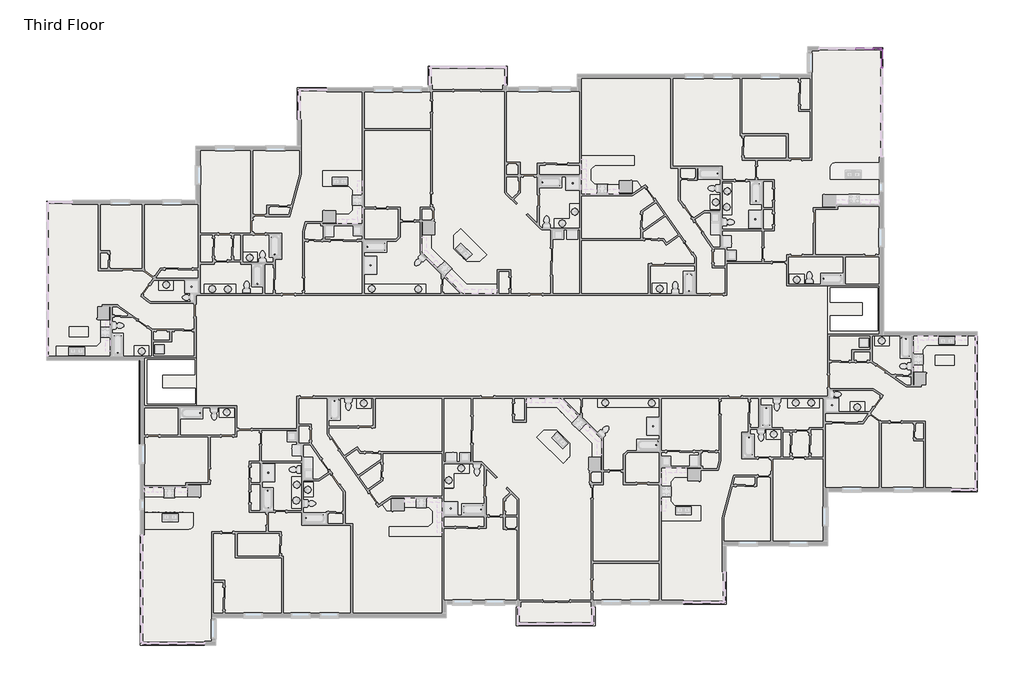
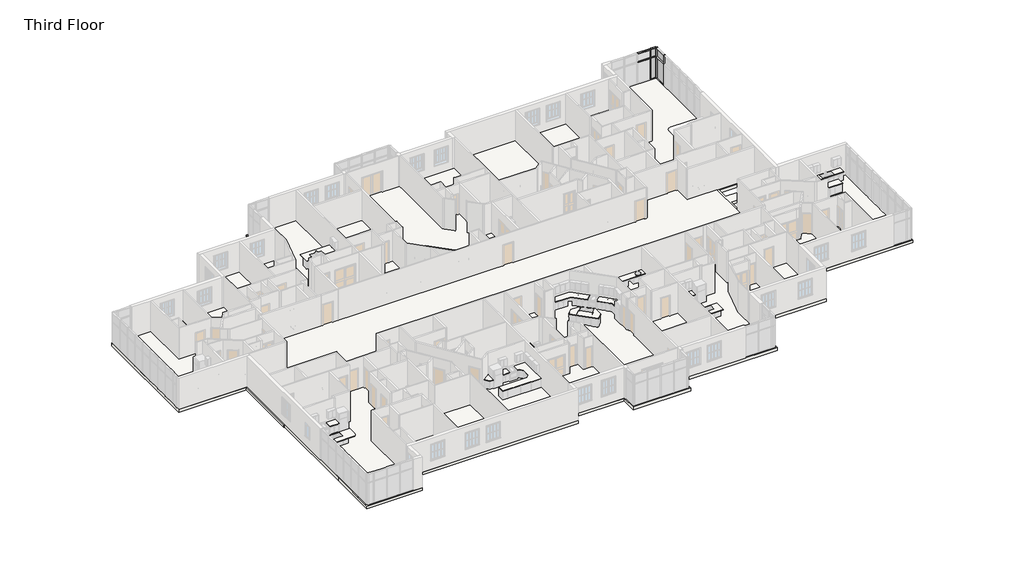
# One storey, part 13 of 17: 39 slabs, 13 members, 4 plates, 1 covering.
"""IFC4 building model written with IfcOpenShell, lengths in millimetres."""

from ifc_helpers import new_model, si_unit, point, frame, frame_2d, origin, place, context, project, spatial, polyline, circle_curve, trimmed, segment, composite_curve, outline, extrude, transform, mapped, element, save
from components import rectangular_mullion_rectangular_mullion_1_c1bf3533, rectangular_mullion_rectangular_mullion_1_fa3625a1, rectangular_mullion_rectangular_mullion_1_a50b3cda, rectangular_mullion_rectangular_mullion_1_5cd4c5ac, rectangular_mullion_rectangular_mullion_1_7cbf0b94, rectangular_mullion_rectangular_mullion_1_1da01dff, rectangular_mullion_rectangular_mullion_1_6186cc23, rectangular_mullion_rectangular_mullion_1_049a2e78, system_panel_glazed_53e6f9fb, system_panel_glazed_0e039939, system_panel_glazed_cb820e14, system_panel_glazed_5b288161

model = new_model("IFC4")

# Units and contexts
model_context = context("Model", 3, world=origin())
ifc_project = project(units=[si_unit("LENGTHUNIT", "METRE", prefix="MILLI")], contexts=[model_context])

# Site, building, storey
site = spatial("IfcSite", under=ifc_project)
building = spatial("IfcBuilding", under=site)
storey = spatial("IfcBuildingStorey", under=building, Name="Third Floor", Elevation=6096.0)

# Covering
placement = place(None, origin())
element("IfcCovering", 1, ObjectType="GWB on Furring", at=placement, inside=storey, context=model_context, shape_type="SweptSolid", body=[
    extrude(outline(polyline([(612.3831159, 8571.3427849), (10823.1831159, 8571.3427849), (10823.1831159, 12228.9427849), (17678.8246608, 12228.9427849), (17678.8246608, 16206.4791823), (26561.7198571, 16206.4791823), (26561.7198571, 17658.2365339), (31636.4923474, 17658.2365339), (31636.4923474, 16286.6365339), (36665.6923474, 16286.6365339), (36665.6923474, 17048.6365339), (52298.3534229, 17048.6365339), (52298.3534229, 18983.9169819), (57200.5534229, 18983.9169819), (57200.5534229, -370.8512558), (63577.7712704, -370.8512558), (63577.7712704, -10909.4129097), (53368.0217107, -10909.4129097), (53368.0217107, -14589.2379097), (46452.5922255, -14589.2379097), (46452.5922255, -18527.8691587), (37601.4470292, -18527.8691587), (37601.4470292, -20097.9066587), (32579.8565643, -20097.9066587), (32579.8565643, -18477.0691587), (27605.5115862, -18477.0691587), (27605.5115862, -19494.2615506), (11891.8009633, -19494.2615506), (11891.8009633, -21333.0996067), (7087.7956159, -21333.0996067), (7087.7956159, -1965.631369), (612.3831159, -1965.631369), (612.3831159, 8571.3427849)]), holes=[polyline([(7156.0581159, -5294.5871067), (10683.583999, -5294.5871067), (10683.583999, -1902.131369), (7156.0581159, -1902.131369), (7156.0581159, -5294.5871067)]), polyline([(53506.5703872, 2888.2544819), (53506.5703872, -370.8512558), (57019.8087704, -370.8512558), (57019.8087704, 2888.2544819), (53506.5703872, 2888.2544819)])]), frame((0.0, 0.0, 6096.0), z_axis=(0.0, 0.0, 1.0), x_axis=(1.0, 0.0, 0.0)), (0.0, 0.0, 1.0), 31.75),
])

# Members
rectangular_mullion_rectangular_mullion_1_shape = rectangular_mullion_rectangular_mullion_1_c1bf3533(model_context)
element("IfcMember", 2, ObjectType="Rectangular Mullion : Rectangular Mullion 1", at=placement, inside=storey, context=model_context, shape_type="MappedRepresentation", body=[
    mapped(rectangular_mullion_rectangular_mullion_1_shape, transform((57092.6034229, 18983.9169819, 9144.0), x_axis=(0.0, 0.0, 1.0), y_axis=(0.0, -1.0, 0.0), z_axis=(1.0, 0.0, 0.0))),
])
rectangular_mullion_rectangular_mullion_1_2_shape = rectangular_mullion_rectangular_mullion_1_fa3625a1(model_context)
element("IfcMember", 3, ObjectType="Rectangular Mullion : Rectangular Mullion 1", at=placement, inside=storey, context=model_context, shape_type="MappedRepresentation", body=[
    mapped(rectangular_mullion_rectangular_mullion_1_2_shape, transform((56571.9034233, 18983.9169819, 9144.0), x_axis=(0.0, 0.0, 1.0), y_axis=(0.0, -1.0, 0.0), z_axis=(1.0, 0.0, 0.0))),
])
element("IfcMember", 4, ObjectType="Rectangular Mullion : Rectangular Mullion 1", at=placement, inside=storey, context=model_context, shape_type="MappedRepresentation", body=[
    mapped(rectangular_mullion_rectangular_mullion_1_2_shape, transform((57175.1534229, 18875.9669819, 6096.0), x_axis=(0.0, 0.0, -1.0), y_axis=(-1.0, 0.0, 0.0), z_axis=(0.0, 1.0, 0.0))),
])
element("IfcMember", 5, ObjectType="Rectangular Mullion : Rectangular Mullion 1", at=placement, inside=storey, context=model_context, shape_type="MappedRepresentation", body=[
    mapped(rectangular_mullion_rectangular_mullion_1_shape, transform((56635.4034233, 18983.9169819, 6096.0), x_axis=(0.0, 0.0, -1.0), y_axis=(0.0, -1.0, 0.0), z_axis=(-1.0, 0.0, 0.0))),
])
rectangular_mullion_rectangular_mullion_1_3_shape = rectangular_mullion_rectangular_mullion_1_a50b3cda(model_context)
element("IfcMember", 6, ObjectType="Rectangular Mullion : Rectangular Mullion 1", at=placement, inside=storey, context=model_context, shape_type="MappedRepresentation", body=[
    mapped(rectangular_mullion_rectangular_mullion_1_3_shape, transform((57156.1034229, 18983.9169819, 6096.0), x_axis=(1.0, 0.0, 0.0), y_axis=(0.0, -1.0, 0.0), z_axis=(0.0, 0.0, -1.0))),
])
rectangular_mullion_rectangular_mullion_1_4_shape = rectangular_mullion_rectangular_mullion_1_5cd4c5ac(model_context)
element("IfcMember", 7, ObjectType="Rectangular Mullion : Rectangular Mullion 1", at=placement, inside=storey, context=model_context, shape_type="MappedRepresentation", body=[
    mapped(rectangular_mullion_rectangular_mullion_1_4_shape, transform((57156.1034229, 18983.9169819, 8261.35), x_axis=(1.0, 0.0, 0.0), y_axis=(0.0, -1.0, 0.0), z_axis=(0.0, 0.0, -1.0))),
])
element("IfcMember", 8, ObjectType="Rectangular Mullion : Rectangular Mullion 1", at=placement, inside=storey, context=model_context, shape_type="MappedRepresentation", body=[
    mapped(rectangular_mullion_rectangular_mullion_1_4_shape, transform((57175.1534229, 18939.4669819, 9144.0), x_axis=(0.0, 1.0, 0.0), y_axis=(-1.0, 0.0, 0.0), z_axis=(0.0, 0.0, 1.0))),
])
element("IfcMember", 9, ObjectType="Rectangular Mullion : Rectangular Mullion 1", at=placement, inside=storey, context=model_context, shape_type="MappedRepresentation", body=[
    mapped(rectangular_mullion_rectangular_mullion_1_3_shape, transform((57175.1534229, 18939.4669819, 8261.35), x_axis=(0.0, 1.0, 0.0), y_axis=(-1.0, 0.0, 0.0), z_axis=(0.0, 0.0, 1.0))),
])
rectangular_mullion_rectangular_mullion_1_5_shape = rectangular_mullion_rectangular_mullion_1_7cbf0b94(model_context)
element("IfcMember", 10, ObjectType="Rectangular Mullion : Rectangular Mullion 1", at=placement, inside=storey, context=model_context, shape_type="MappedRepresentation", body=[
    mapped(rectangular_mullion_rectangular_mullion_1_5_shape, transform((56571.9034233, 18983.9169819, 8261.35), x_axis=(0.0, 0.0, 1.0), y_axis=(0.0, -1.0, 0.0), z_axis=(1.0, 0.0, 0.0))),
])
rectangular_mullion_rectangular_mullion_1_6_shape = rectangular_mullion_rectangular_mullion_1_1da01dff(model_context)
element("IfcMember", 11, ObjectType="Rectangular Mullion : Rectangular Mullion 1", at=placement, inside=storey, context=model_context, shape_type="MappedRepresentation", body=[
    mapped(rectangular_mullion_rectangular_mullion_1_6_shape, transform((57092.6034229, 18983.9169819, 8261.35), x_axis=(0.0, 0.0, 1.0), y_axis=(0.0, -1.0, 0.0), z_axis=(1.0, 0.0, 0.0))),
])
rectangular_mullion_rectangular_mullion_1_7_shape = rectangular_mullion_rectangular_mullion_1_6186cc23(model_context)
element("IfcMember", 12, ObjectType="Rectangular Mullion : Rectangular Mullion 1", at=placement, inside=storey, context=model_context, shape_type="MappedRepresentation", body=[
    mapped(rectangular_mullion_rectangular_mullion_1_7_shape, transform((56603.6534233, 18983.9169819, 6096.0), x_axis=(1.0, 0.0, 0.0), y_axis=(0.0, -1.0, 0.0), z_axis=(0.0, 0.0, -1.0))),
])
rectangular_mullion_rectangular_mullion_1_8_shape = rectangular_mullion_rectangular_mullion_1_049a2e78(model_context)
element("IfcMember", 13, ObjectType="Rectangular Mullion : Rectangular Mullion 1", at=placement, inside=storey, context=model_context, shape_type="MappedRepresentation", body=[
    mapped(rectangular_mullion_rectangular_mullion_1_8_shape, transform((56603.6534233, 18983.9169819, 8261.35), x_axis=(1.0, 0.0, 0.0), y_axis=(0.0, -1.0, 0.0), z_axis=(0.0, 0.0, -1.0))),
])
element("IfcMember", 14, ObjectType="Rectangular Mullion : Rectangular Mullion 1", at=placement, inside=storey, context=model_context, shape_type="MappedRepresentation", body=[
    mapped(rectangular_mullion_rectangular_mullion_1_8_shape, transform((57175.1534229, 17688.5169816, 8261.35), x_axis=(0.0, -1.0, 0.0), y_axis=(-1.0, 0.0, 0.0), z_axis=(0.0, 0.0, -1.0))),
])

# Plates
system_panel_glazed_shape = system_panel_glazed_53e6f9fb(model_context)
element("IfcPlate", 15, ObjectType="System Panel : Glazed", at=placement, inside=storey, context=model_context, shape_type="MappedRepresentation", body=[
    mapped(system_panel_glazed_shape, transform((57175.1534229, 18298.1169818, 6159.5), x_axis=(0.0, -1.0, 0.0), y_axis=(1.0, 0.0, 0.0), z_axis=(0.0, 0.0, 1.0))),
])
system_panel_glazed_2_shape = system_panel_glazed_0e039939(model_context)
element("IfcPlate", 16, ObjectType="System Panel : Glazed", at=placement, inside=storey, context=model_context, shape_type="MappedRepresentation", body=[
    mapped(system_panel_glazed_2_shape, transform((56864.0034231, 18983.9169819, 6159.5), x_axis=(1.0, 0.0, 0.0), y_axis=(0.0, 1.0, 0.0), z_axis=(0.0, 0.0, 1.0))),
])
system_panel_glazed_3_shape = system_panel_glazed_cb820e14(model_context)
element("IfcPlate", 17, ObjectType="System Panel : Glazed", at=placement, inside=storey, context=model_context, shape_type="MappedRepresentation", body=[
    mapped(system_panel_glazed_3_shape, transform((57175.1534229, 18298.1169818, 8293.1), x_axis=(0.0, -1.0, 0.0), y_axis=(1.0, 0.0, 0.0), z_axis=(0.0, 0.0, 1.0))),
])
system_panel_glazed_4_shape = system_panel_glazed_5b288161(model_context)
element("IfcPlate", 18, ObjectType="System Panel : Glazed", at=placement, inside=storey, context=model_context, shape_type="MappedRepresentation", body=[
    mapped(system_panel_glazed_4_shape, transform((56864.0034231, 18983.9169819, 8293.1), x_axis=(1.0, 0.0, 0.0), y_axis=(0.0, 1.0, 0.0), z_axis=(0.0, 0.0, 1.0))),
])

# Slabs
element("IfcSlab", 19, ObjectType="Marble", at=placement, inside=storey, context=model_context, shape_type="SweptSolid", body=[
    extrude(outline(polyline([(50926.9744057, 3675.6544819), (51917.5744057, 3675.6544819), (51917.5744057, 3021.6044819), (50926.9744057, 3021.6044819), (50926.9744057, 3675.6544819)]), holes=[composite_curve([segment(trimmed(circle_curve(frame_2d((51422.2744057, 3320.0544819)), 203.2), [point((51219.0744057, 3320.0544819))], [point((51625.4744057, 3320.0544819))], True, "CARTESIAN"), True, "CONTINUOUS"), segment(trimmed(circle_curve(frame_2d((51422.2744057, 3320.0544819)), 203.2), [point((51625.4744057, 3320.0544819))], [point((51219.0744057, 3320.0544819))], True, "CARTESIAN"), True, "CONTINUOUS")], self_intersect=False)]), frame((0.0, 0.0, 6832.6), z_axis=(0.0, 0.0, 1.0), x_axis=(1.0, 0.0, 0.0)), (0.0, 0.0, 1.0), 38.1),
])
element("IfcSlab", 20, ObjectType="Marble", at=placement, inside=storey, context=model_context, shape_type="SweptSolid", body=[
    extrude(outline(polyline([(47019.1852525, 9841.9667096), (47019.1852525, 7708.3667096), (46371.4852525, 7708.3667096), (46371.4852525, 9841.9667096), (47019.1852525, 9841.9667096)]), holes=[composite_curve([segment(trimmed(circle_curve(frame_2d((46688.9852525, 8241.7667096)), 203.2), [point((46485.7852525, 8241.7667096))], [point((46892.1852525, 8241.7667096))], True, "CARTESIAN"), True, "CONTINUOUS"), segment(trimmed(circle_curve(frame_2d((46688.9852525, 8241.7667096)), 203.2), [point((46892.1852525, 8241.7667096))], [point((46485.7852525, 8241.7667096))], True, "CARTESIAN"), True, "CONTINUOUS")], self_intersect=False), composite_curve([segment(trimmed(circle_curve(frame_2d((46688.9852525, 9308.5667096)), 203.2), [point((46485.7852525, 9308.5667096))], [point((46892.1852525, 9308.5667096))], True, "CARTESIAN"), True, "CONTINUOUS"), segment(trimmed(circle_curve(frame_2d((46688.9852525, 9308.5667096)), 203.2), [point((46892.1852525, 9308.5667096))], [point((46485.7852525, 9308.5667096))], True, "CARTESIAN"), True, "CONTINUOUS")], self_intersect=False)]), frame((0.0, 0.0, 6832.6), z_axis=(0.0, 0.0, 1.0), x_axis=(1.0, 0.0, 0.0)), (0.0, 0.0, 1.0), 38.1),
])
element("IfcSlab", 21, ObjectType="Marble", at=placement, inside=storey, context=model_context, shape_type="SweptSolid", body=[
    extrude(outline(polyline([(37464.1178001, 10049.9225466), (37730.8178001, 9783.2225466), (37857.8178001, 9783.2225466), (37857.8178001, 9119.7410099), (36816.4178001, 9119.7410099), (36816.4178001, 11733.611548), (40399.3657184, 11733.611548), (40399.3657184, 11085.911548), (37746.5993369, 11085.911548), (37464.1178001, 10803.4300112), (37464.1178001, 10049.9225466)])), frame((0.0, 0.0, 6972.3), z_axis=(0.0, 0.0, 1.0), x_axis=(1.0, 0.0, 0.0)), (0.0, 0.0, 1.0), 38.1),
    extrude(outline(polyline([(39378.9347694, 9767.4410099), (39378.9347694, 9119.7410099), (38616.9347694, 9119.7410099), (38616.9347694, 9767.4410099), (39378.9347694, 9767.4410099)])), frame((0.0, 0.0, 6972.3), z_axis=(0.0, 0.0, 1.0), x_axis=(1.0, 0.0, 0.0)), (0.0, 0.0, 1.0), 38.1),
])
element("IfcSlab", 22, ObjectType="Marble", at=placement, inside=storey, context=model_context, shape_type="SweptSolid", body=[
    extrude(outline(polyline([(41626.0511183, 3064.2091714), (42616.6511183, 3064.2091714), (42616.6511183, 2391.1091714), (41626.0511183, 2391.1091714), (41626.0511183, 3064.2091714)]), holes=[composite_curve([segment(trimmed(circle_curve(frame_2d((42121.3511183, 2708.6091714)), 203.2), [point((41918.1511183, 2708.6091714))], [point((42324.5511183, 2708.6091714))], True, "CARTESIAN"), True, "CONTINUOUS"), segment(trimmed(circle_curve(frame_2d((42121.3511183, 2708.6091714)), 203.2), [point((42324.5511183, 2708.6091714))], [point((41918.1511183, 2708.6091714))], True, "CARTESIAN"), True, "CONTINUOUS")], self_intersect=False)]), frame((0.0, 0.0, 6832.6), z_axis=(0.0, 0.0, 1.0), x_axis=(1.0, 0.0, 0.0)), (0.0, 0.0, 1.0), 38.1),
])
element("IfcSlab", 23, ObjectType="Marble", at=placement, inside=storey, context=model_context, shape_type="SweptSolid", body=[
    extrude(outline(polyline([(34989.4572348, 6808.2918202), (34989.4572348, 7449.6418202), (36024.5072348, 7449.6418202), (36024.5072348, 8459.2918202), (36704.1794441, 8459.2918202), (36702.1178001, 6806.1559423), (34989.4572348, 6808.2918202)]), holes=[composite_curve([segment(trimmed(circle_curve(frame_2d((35526.0206512, 7126.8943672)), 203.2), [point((35729.2204932, 7126.6409544))], [point((35322.8208092, 7127.14778))], True, "CARTESIAN"), True, "CONTINUOUS"), segment(trimmed(circle_curve(frame_2d((35526.0206512, 7126.8943672)), 203.2), [point((35322.8208092, 7127.14778))], [point((35729.2204932, 7126.6409544))], True, "CARTESIAN"), True, "CONTINUOUS")], self_intersect=False), composite_curve([segment(trimmed(circle_curve(frame_2d((36367.6300654, 7922.506761)), 203.2), [point((36570.8299073, 7922.2533482))], [point((36164.4302234, 7922.7601737))], True, "CARTESIAN"), True, "CONTINUOUS"), segment(trimmed(circle_curve(frame_2d((36367.6300654, 7922.506761)), 203.2), [point((36164.4302234, 7922.7601737))], [point((36570.8299073, 7922.2533482))], True, "CARTESIAN"), True, "CONTINUOUS")], self_intersect=False)]), frame((0.0, 0.0, 6832.6), z_axis=(0.0, 0.0, 1.0), x_axis=(1.0, 0.0, 0.0)), (0.0, 0.0, 1.0), 38.1),
])
element("IfcSlab", 24, ObjectType="Marble", at=placement, inside=storey, context=model_context, shape_type="SweptSolid", body=[
    extrude(outline(polyline([(13837.7035557, 5166.0591714), (14828.3035557, 5166.0591714), (14828.3035557, 4492.9591714), (13837.7035557, 4492.9591714), (13837.7035557, 5166.0591714)]), holes=[composite_curve([segment(trimmed(circle_curve(frame_2d((14333.0035557, 4810.4591714)), 203.2), [point((14129.8035557, 4810.4591714))], [point((14536.2035557, 4810.4591714))], True, "CARTESIAN"), True, "CONTINUOUS"), segment(trimmed(circle_curve(frame_2d((14333.0035557, 4810.4591714)), 203.2), [point((14536.2035557, 4810.4591714))], [point((14129.8035557, 4810.4591714))], True, "CARTESIAN"), True, "CONTINUOUS")], self_intersect=False)]), frame((0.0, 0.0, 6832.6), z_axis=(0.0, 0.0, 1.0), x_axis=(1.0, 0.0, 0.0)), (0.0, 0.0, 1.0), 38.1),
])
element("IfcSlab", 25, ObjectType="Marble", at=placement, inside=storey, context=model_context, shape_type="SweptSolid", body=[
    extrude(outline(polyline([(6504.0261709, -1173.468869), (7494.6261709, -1173.468869), (7494.6261709, -1846.568869), (6504.0261709, -1846.568869), (6504.0261709, -1173.468869)]), holes=[composite_curve([segment(trimmed(circle_curve(frame_2d((6999.3261709, -1529.068869)), 203.2), [point((6796.1261709, -1529.068869))], [point((7202.5261708, -1529.068869))], True, "CARTESIAN"), True, "CONTINUOUS"), segment(trimmed(circle_curve(frame_2d((6999.3261709, -1529.068869)), 203.2), [point((7202.5261708, -1529.068869))], [point((6796.1261709, -1529.068869))], True, "CARTESIAN"), True, "CONTINUOUS")], self_intersect=False)]), frame((0.0, 0.0, 6832.6), z_axis=(0.0, 0.0, 1.0), x_axis=(1.0, 0.0, 0.0)), (0.0, 0.0, 1.0), 38.1),
])
element("IfcSlab", 26, ObjectType="Marble", at=placement, inside=storey, context=model_context, shape_type="SweptSolid", body=[
    extrude(outline(polyline([(9152.6629179, 2616.3624849), (8162.0629179, 2616.3624849), (8162.0629179, 3289.4624849), (9152.6629179, 3289.4624849), (9152.6629179, 2616.3624849)]), holes=[composite_curve([segment(trimmed(circle_curve(frame_2d((8657.3629179, 2971.9624849)), 203.2), [point((8860.5629179, 2971.9624849))], [point((8454.1629179, 2971.9624849))], True, "CARTESIAN"), True, "CONTINUOUS"), segment(trimmed(circle_curve(frame_2d((8657.3629179, 2971.9624849)), 203.2), [point((8454.1629179, 2971.9624849))], [point((8860.5629179, 2971.9624849))], True, "CARTESIAN"), True, "CONTINUOUS")], self_intersect=False)]), frame((0.0, 0.0, 6832.6), z_axis=(0.0, 0.0, 1.0), x_axis=(1.0, 0.0, 0.0)), (0.0, 0.0, 1.0), 38.1),
])
element("IfcSlab", 27, ObjectType="Marble", at=placement, inside=storey, context=model_context, shape_type="SweptSolid", body=[
    extrude(outline(polyline([(11250.0391694, 3007.0591714), (13383.6391694, 3007.0591714), (13383.6391694, 2359.3591714), (11250.0391694, 2359.3591714), (11250.0391694, 3007.0591714)]), holes=[composite_curve([segment(trimmed(circle_curve(frame_2d((12850.2391694, 2676.8591714)), 203.2), [point((12850.2391694, 2473.6591714))], [point((12850.2391694, 2880.0591714))], True, "CARTESIAN"), True, "CONTINUOUS"), segment(trimmed(circle_curve(frame_2d((12850.2391694, 2676.8591714)), 203.2), [point((12850.2391694, 2880.0591714))], [point((12850.2391694, 2473.6591714))], True, "CARTESIAN"), True, "CONTINUOUS")], self_intersect=False), composite_curve([segment(trimmed(circle_curve(frame_2d((11783.4391694, 2676.8591714)), 203.2), [point((11783.4391694, 2473.6591714))], [point((11783.4391694, 2880.0591714))], True, "CARTESIAN"), True, "CONTINUOUS"), segment(trimmed(circle_curve(frame_2d((11783.4391694, 2676.8591714)), 203.2), [point((11783.4391694, 2880.0591714))], [point((11783.4391694, 2473.6591714))], True, "CARTESIAN"), True, "CONTINUOUS")], self_intersect=False)]), frame((0.0, 0.0, 6832.6), z_axis=(0.0, 0.0, 1.0), x_axis=(1.0, 0.0, 0.0)), (0.0, 0.0, 1.0), 38.1),
])
element("IfcSlab", 28, ObjectType="Marble", at=placement, inside=storey, context=model_context, shape_type="SweptSolid", body=[
    extrude(outline(polyline([(45565.0352525, 8075.3578219), (45565.0352525, 9065.9578219), (46238.1352525, 9065.9578219), (46238.1352525, 8075.3578219), (45565.0352525, 8075.3578219)]), holes=[composite_curve([segment(trimmed(circle_curve(frame_2d((45920.6352525, 8570.6578219)), 203.2), [point((45920.6352525, 8367.4578219))], [point((45920.6352525, 8773.8578219))], True, "CARTESIAN"), True, "CONTINUOUS"), segment(trimmed(circle_curve(frame_2d((45920.6352525, 8570.6578219)), 203.2), [point((45920.6352525, 8773.8578219))], [point((45920.6352525, 8367.4578219))], True, "CARTESIAN"), True, "CONTINUOUS")], self_intersect=False)]), frame((0.0, 0.0, 6832.6), z_axis=(0.0, 0.0, 1.0), x_axis=(1.0, 0.0, 0.0)), (0.0, 0.0, 1.0), 38.1),
])
element("IfcSlab", 29, ObjectType="Marble", at=placement, inside=storey, context=model_context, shape_type="SweptSolid", body=[
    extrude(outline(polyline([(22080.2073571, 2360.472146), (22080.2073571, 2998.7524338), (26255.1289848, 2998.7524338), (26254.3264865, 2355.2665559), (22080.2073571, 2360.472146)]), holes=[composite_curve([segment(trimmed(circle_curve(frame_2d((25745.6467357, 2687.6122399)), 203.2), [point((25948.8465777, 2687.3588271))], [point((25542.4468937, 2687.8656527))], True, "CARTESIAN"), True, "CONTINUOUS"), segment(trimmed(circle_curve(frame_2d((25745.6467357, 2687.6122399)), 203.2), [point((25542.4468937, 2687.8656527))], [point((25948.8465777, 2687.3588271))], True, "CARTESIAN"), True, "CONTINUOUS")], self_intersect=False), composite_curve([segment(trimmed(circle_curve(frame_2d((22592.5961675, 2688.7367665)), 203.2), [point((22795.7960094, 2688.4833537))], [point((22389.3963255, 2688.9901793))], True, "CARTESIAN"), True, "CONTINUOUS"), segment(trimmed(circle_curve(frame_2d((22592.5961675, 2688.7367665)), 203.2), [point((22389.3963255, 2688.9901793))], [point((22795.7960094, 2688.4833537))], True, "CARTESIAN"), True, "CONTINUOUS")], self_intersect=False)]), frame((0.0, 0.0, 6832.6), z_axis=(0.0, 0.0, 1.0), x_axis=(1.0, 0.0, 0.0)), (0.0, 0.0, 1.0), 38.1),
])
element("IfcSlab", 30, ObjectType="Marble", at=placement, inside=storey, context=model_context, shape_type="SweptSolid", body=[
    extrude(outline(polyline([(28783.4392197, 2359.3591714), (27570.5233749, 3572.2750163), (28024.026309, 4025.7779504), (29049.0950879, 3000.7091714), (31107.0576897, 3000.7091714), (31107.0576897, 2359.3591714), (28783.4392197, 2359.3591714)])), frame((0.0, 0.0, 6972.3), z_axis=(0.0, 0.0, 1.0), x_axis=(1.0, 0.0, 0.0)), (0.0, 0.0, 1.0), 38.1),
])
element("IfcSlab", 31, ObjectType="Marble", at=placement, inside=storey, context=model_context, shape_type="SweptSolid", body=[
    extrude(outline(polyline([(28155.1545559, 6318.8980734), (28617.9568497, 6781.7003672), (30387.0673056, 5012.5899114), (29924.2650118, 4549.7876175), (29035.8578629, 4549.7876175), (28155.1545559, 5430.4909246), (28155.1545559, 6318.8980734)]), holes=[polyline([(28270.4282732, 5414.0000246), (29020.2863832, 4664.1419146), (29396.3907891, 5040.2463205), (28646.532679, 5790.1044305), (28270.4282732, 5414.0000246)])]), frame((0.0, 0.0, 6972.3), z_axis=(0.0, 0.0, 1.0), x_axis=(1.0, 0.0, 0.0)), (0.0, 0.0, 1.0), 38.1),
])
element("IfcSlab", 32, ObjectType="Marble", at=placement, inside=storey, context=model_context, shape_type="SweptSolid", body=[
    extrude(outline(polyline([(25998.6143708, 5154.0887964), (25998.6143708, 6373.2887964), (26639.9643708, 6373.2887964), (26639.9643708, 5431.1290346), (27499.5191999, 4571.5742055), (27040.3240808, 4112.3790864), (25998.6143708, 5154.0887964)])), frame((0.0, 0.0, 6972.3), z_axis=(0.0, 0.0, 1.0), x_axis=(1.0, 0.0, 0.0)), (0.0, 0.0, 1.0), 38.1),
])
element("IfcSlab", 33, ObjectType="Marble", at=placement, inside=storey, context=model_context, shape_type="SweptSolid", body=[
    extrude(outline(polyline([(2093.0864714, 129.9694727), (3375.7864714, 129.9694727), (3375.7864714, -543.1305273), (2093.0864714, -543.1305273), (2093.0864714, 129.9694727)])), frame((0.0, 0.0, 6972.3), z_axis=(0.0, 0.0, 1.0), x_axis=(1.0, 0.0, 0.0)), (0.0, 0.0, 1.0), 38.1),
])
element("IfcSlab", 34, ObjectType="Marble", at=placement, inside=storey, context=model_context, shape_type="SweptSolid", body=[
    extrude(outline(polyline([(4880.7003923, -1846.568869), (1191.3503923, -1846.568869), (1191.3503923, -1205.218869), (3957.3264687, -1205.218869), (4239.3503923, -923.1949454), (4239.3503923, -631.546226), (4880.7003923, -631.546226), (4880.7003923, -1846.568869)]), holes=[polyline([(3128.1003923, -1808.468869), (3128.1003923, -1275.068869), (2061.3003923, -1275.068869), (2061.3003923, -1808.468869), (3128.1003923, -1808.468869)])]), frame((0.0, 0.0, 6972.3), z_axis=(0.0, 0.0, 1.0), x_axis=(1.0, 0.0, 0.0)), (0.0, 0.0, 1.0), 38.1),
    extrude(outline(polyline([(4239.3503923, 131.5202225), (4239.3503923, 598.1185137), (4880.7003923, 598.1185137), (4880.7003923, 131.5202225), (4239.3503923, 131.5202225)])), frame((0.0, 0.0, 6972.3), z_axis=(0.0, 0.0, 1.0), x_axis=(1.0, 0.0, 0.0)), (0.0, 0.0, 1.0), 38.1),
])
element("IfcSlab", 35, ObjectType="Marble", at=placement, inside=storey, context=model_context, shape_type="SweptSolid", body=[
    extrude(outline(polyline([(20158.6042781, 7744.555075), (21038.3560765, 7744.555075), (21324.5573571, 8030.7563556), (21324.5573571, 8322.405075), (21972.2573571, 8322.405075), (21972.2573571, 7103.205075), (20158.6042781, 7103.205075), (20158.6042781, 7744.555075)])), frame((0.0, 0.0, 6972.3), z_axis=(0.0, 0.0, 1.0), x_axis=(1.0, 0.0, 0.0)), (0.0, 0.0, 1.0), 38.1),
    extrude(outline(polyline([(21044.7060765, 9655.905075), (19273.5073571, 9655.905075), (19273.5073571, 10697.0239484), (21972.2573571, 10697.0239484), (21972.2573571, 9084.405075), (21324.5573571, 9084.405075), (21324.5573571, 9376.0537944), (21044.7060765, 9655.905075)]), holes=[polyline([(20987.7427245, 10265.2239484), (19916.8560751, 10265.2239484), (19916.8560751, 9732.105075), (20987.7427245, 9732.105075), (20987.7427245, 10265.2239484)])]), frame((0.0, 0.0, 6972.3), z_axis=(0.0, 0.0, 1.0), x_axis=(1.0, 0.0, 0.0)), (0.0, 0.0, 1.0), 38.1),
])
element("IfcSlab", 36, ObjectType="Marble", at=placement, inside=storey, context=model_context, shape_type="SweptSolid", body=[
    extrude(outline(polyline([(40262.8543604, 10000.5110724), (40587.2272521, 10000.5110724), (40887.9989359, 9570.9645917), (40262.8543604, 9133.2336474), (40262.8543604, 10000.5110724)])), frame((0.0, 0.0, 6972.3), z_axis=(0.0, 0.0, 1.0), x_axis=(1.0, 0.0, 0.0)), (0.0, 0.0, 1.0), 38.1),
])
element("IfcSlab", 37, ObjectType="Marble", at=placement, inside=storey, context=model_context, shape_type="SweptSolid", body=[
    extrude(outline(composite_curve([segment(polyline([(7170.3456159, -12486.5347765), (10488.6061289, -12486.5347765), (10488.6061289, -13305.0808673)]), True, "CONTINUOUS"), segment(trimmed(circle_curve(frame_2d((10183.8061289, -13305.0808673)), 304.8), [point((10488.6061289, -13305.0808673))], [point((10180.1154029, -13609.8585216))], False, "CARTESIAN"), True, "CONTINUOUS"), segment(polyline([(10180.1154029, -13609.8585216), (7170.3456159, -13609.8585216), (7170.3456159, -12486.5347765)]), True, "CONTINUOUS")], self_intersect=False), holes=[polyline([(9469.7910491, -13082.6391551), (9469.7910491, -12555.3066357), (8402.0211605, -12555.3066357), (8402.0211605, -13082.6391551), (9469.7910491, -13082.6391551)])]), frame((0.0, 0.0, 6972.3), z_axis=(0.0, 0.0, 1.0), x_axis=(1.0, 0.0, 0.0)), (0.0, 0.0, 1.0), 38.1),
])
element("IfcSlab", 38, ObjectType="Marble", at=placement, inside=storey, context=model_context, shape_type="SweptSolid", body=[
    extrude(outline(polyline([(10127.0683728, -11419.8368662), (9246.0058728, -11419.8368662), (9246.0058728, -10794.1493344), (10127.0683728, -10794.1493344), (10127.0683728, -11419.8368662)])), frame((0.0, 0.0, 6972.3), z_axis=(0.0, 0.0, 1.0), x_axis=(1.0, 0.0, 0.0)), (0.0, 0.0, 1.0), 38.1),
    extrude(outline(polyline([(8484.0058728, -11419.8368662), (7175.9058728, -11419.8368662), (7175.9058728, -10772.1368662), (8484.0058728, -10772.1368662), (8484.0058728, -11419.8368662)])), frame((0.0, 0.0, 6972.3), z_axis=(0.0, 0.0, 1.0), x_axis=(1.0, 0.0, 0.0)), (0.0, 0.0, 1.0), 38.1),
])
element("IfcSlab", 39, ObjectType="Marble", at=placement, inside=storey, context=model_context, shape_type="SweptSolid", body=[
    extrude(outline(polyline([(13263.1799806, -6024.8371067), (12272.5799806, -6024.8371067), (12272.5799806, -5370.7871067), (13263.1799806, -5370.7871067), (13263.1799806, -6024.8371067)]), holes=[composite_curve([segment(trimmed(circle_curve(frame_2d((12767.8799806, -5669.2371067)), 203.2), [point((12971.0799806, -5669.2371067))], [point((12564.6799806, -5669.2371067))], True, "CARTESIAN"), True, "CONTINUOUS"), segment(trimmed(circle_curve(frame_2d((12767.8799806, -5669.2371067)), 203.2), [point((12564.6799806, -5669.2371067))], [point((12971.0799806, -5669.2371067))], True, "CARTESIAN"), True, "CONTINUOUS")], self_intersect=False)]), frame((0.0, 0.0, 6832.6), z_axis=(0.0, 0.0, 1.0), x_axis=(1.0, 0.0, 0.0)), (0.0, 0.0, 1.0), 38.1),
])
element("IfcSlab", 40, ObjectType="Marble", at=placement, inside=storey, context=model_context, shape_type="SweptSolid", body=[
    extrude(outline(polyline([(17170.9691338, -12191.1493344), (17170.9691338, -10057.5493344), (17818.6691338, -10057.5493344), (17818.6691338, -12191.1493344), (17170.9691338, -12191.1493344)]), holes=[composite_curve([segment(trimmed(circle_curve(frame_2d((17501.1691338, -10590.9493344)), 203.2), [point((17704.3691338, -10590.9493344))], [point((17297.9691338, -10590.9493344))], True, "CARTESIAN"), True, "CONTINUOUS"), segment(trimmed(circle_curve(frame_2d((17501.1691338, -10590.9493344)), 203.2), [point((17297.9691338, -10590.9493344))], [point((17704.3691338, -10590.9493344))], True, "CARTESIAN"), True, "CONTINUOUS")], self_intersect=False), composite_curve([segment(trimmed(circle_curve(frame_2d((17501.1691338, -11657.7493344)), 203.2), [point((17704.3691338, -11657.7493344))], [point((17297.9691338, -11657.7493344))], True, "CARTESIAN"), True, "CONTINUOUS"), segment(trimmed(circle_curve(frame_2d((17501.1691338, -11657.7493344)), 203.2), [point((17297.9691338, -11657.7493344))], [point((17704.3691338, -11657.7493344))], True, "CARTESIAN"), True, "CONTINUOUS")], self_intersect=False)]), frame((0.0, 0.0, 6832.6), z_axis=(0.0, 0.0, 1.0), x_axis=(1.0, 0.0, 0.0)), (0.0, 0.0, 1.0), 38.1),
])
element("IfcSlab", 41, ObjectType="Marble", at=placement, inside=storey, context=model_context, shape_type="SweptSolid", body=[
    extrude(outline(polyline([(26726.0365862, -12399.1051714), (26459.3365862, -12132.4051714), (26332.3365862, -12132.4051714), (26332.3365862, -11468.9236347), (27373.7365862, -11468.9236347), (27373.7365862, -14082.7941728), (23790.7886679, -14082.7941728), (23790.7886679, -13435.0941728), (26443.5550494, -13435.0941728), (26726.0365862, -13152.6126361), (26726.0365862, -12399.1051714)])), frame((0.0, 0.0, 6972.3), z_axis=(0.0, 0.0, 1.0), x_axis=(1.0, 0.0, 0.0)), (0.0, 0.0, 1.0), 38.1),
    extrude(outline(polyline([(24811.2196169, -12116.6236347), (24811.2196169, -11468.9236347), (25573.2196169, -11468.9236347), (25573.2196169, -12116.6236347), (24811.2196169, -12116.6236347)])), frame((0.0, 0.0, 6972.3), z_axis=(0.0, 0.0, 1.0), x_axis=(1.0, 0.0, 0.0)), (0.0, 0.0, 1.0), 38.1),
])
element("IfcSlab", 42, ObjectType="Marble", at=placement, inside=storey, context=model_context, shape_type="SweptSolid", body=[
    extrude(outline(polyline([(22564.103268, -5413.3917963), (21573.503268, -5413.3917963), (21573.503268, -4740.2917963), (22564.103268, -4740.2917963), (22564.103268, -5413.3917963)]), holes=[composite_curve([segment(trimmed(circle_curve(frame_2d((22068.803268, -5057.7917963)), 203.2), [point((22272.003268, -5057.7917963))], [point((21865.603268, -5057.7917963))], True, "CARTESIAN"), True, "CONTINUOUS"), segment(trimmed(circle_curve(frame_2d((22068.803268, -5057.7917963)), 203.2), [point((21865.603268, -5057.7917963))], [point((22272.003268, -5057.7917963))], True, "CARTESIAN"), True, "CONTINUOUS")], self_intersect=False)]), frame((0.0, 0.0, 6832.6), z_axis=(0.0, 0.0, 1.0), x_axis=(1.0, 0.0, 0.0)), (0.0, 0.0, 1.0), 38.1),
])
element("IfcSlab", 43, ObjectType="Marble", at=placement, inside=storey, context=model_context, shape_type="SweptSolid", body=[
    extrude(outline(polyline([(29200.6971515, -9157.474445), (29200.6971515, -9798.824445), (28165.6471515, -9798.824445), (28165.6471515, -10808.474445), (27485.9749422, -10808.474445), (27488.0365862, -9155.3385671), (29200.6971515, -9157.474445)]), holes=[composite_curve([segment(trimmed(circle_curve(frame_2d((28664.1337351, -9476.076992)), 203.2), [point((28460.9338931, -9475.8235793))], [point((28867.3335771, -9476.3304048))], True, "CARTESIAN"), True, "CONTINUOUS"), segment(trimmed(circle_curve(frame_2d((28664.1337351, -9476.076992)), 203.2), [point((28867.3335771, -9476.3304048))], [point((28460.9338931, -9475.8235793))], True, "CARTESIAN"), True, "CONTINUOUS")], self_intersect=False), composite_curve([segment(trimmed(circle_curve(frame_2d((27822.5243209, -10271.6893858)), 203.2), [point((27619.324479, -10271.435973))], [point((28025.7241629, -10271.9427985))], True, "CARTESIAN"), True, "CONTINUOUS"), segment(trimmed(circle_curve(frame_2d((27822.5243209, -10271.6893858)), 203.2), [point((28025.7241629, -10271.9427985))], [point((27619.324479, -10271.435973))], True, "CARTESIAN"), True, "CONTINUOUS")], self_intersect=False)]), frame((0.0, 0.0, 6832.6), z_axis=(0.0, 0.0, 1.0), x_axis=(1.0, 0.0, 0.0)), (0.0, 0.0, 1.0), 38.1),
])
element("IfcSlab", 44, ObjectType="Marble", at=placement, inside=storey, context=model_context, shape_type="SweptSolid", body=[
    extrude(outline(polyline([(50352.4508306, -7515.2417963), (49361.8508306, -7515.2417963), (49361.8508306, -6842.1417963), (50352.4508306, -6842.1417963), (50352.4508306, -7515.2417963)]), holes=[composite_curve([segment(trimmed(circle_curve(frame_2d((49857.1508306, -7159.6417963)), 203.2), [point((50060.3508306, -7159.6417963))], [point((49653.9508306, -7159.6417963))], True, "CARTESIAN"), True, "CONTINUOUS"), segment(trimmed(circle_curve(frame_2d((49857.1508306, -7159.6417963)), 203.2), [point((49653.9508306, -7159.6417963))], [point((50060.3508306, -7159.6417963))], True, "CARTESIAN"), True, "CONTINUOUS")], self_intersect=False)]), frame((0.0, 0.0, 6832.6), z_axis=(0.0, 0.0, 1.0), x_axis=(1.0, 0.0, 0.0)), (0.0, 0.0, 1.0), 38.1),
])
element("IfcSlab", 45, ObjectType="Marble", at=placement, inside=storey, context=model_context, shape_type="SweptSolid", body=[
    extrude(outline(polyline([(57686.1282154, -1175.7137558), (56695.5282154, -1175.7137558), (56695.5282154, -485.1512558), (57686.1282154, -485.1512558), (57686.1282154, -1175.7137558)]), holes=[composite_curve([segment(trimmed(circle_curve(frame_2d((57190.8282154, -820.1137558)), 203.2), [point((57394.0282154, -820.1137558))], [point((56987.6282154, -820.1137558))], True, "CARTESIAN"), True, "CONTINUOUS"), segment(trimmed(circle_curve(frame_2d((57190.8282154, -820.1137558)), 203.2), [point((56987.6282154, -820.1137558))], [point((57394.0282154, -820.1137558))], True, "CARTESIAN"), True, "CONTINUOUS")], self_intersect=False)]), frame((0.0, 0.0, 6832.6), z_axis=(0.0, 0.0, 1.0), x_axis=(1.0, 0.0, 0.0)), (0.0, 0.0, 1.0), 38.1),
])
element("IfcSlab", 46, ObjectType="Marble", at=placement, inside=storey, context=model_context, shape_type="SweptSolid", body=[
    extrude(outline(polyline([(55037.4914684, -4965.5451097), (56028.0914684, -4965.5451097), (56028.0914684, -5638.6451097), (55037.4914684, -5638.6451097), (55037.4914684, -4965.5451097)]), holes=[composite_curve([segment(trimmed(circle_curve(frame_2d((55532.7914684, -5321.1451097)), 203.2), [point((55329.5914684, -5321.1451097))], [point((55735.9914684, -5321.1451097))], True, "CARTESIAN"), True, "CONTINUOUS"), segment(trimmed(circle_curve(frame_2d((55532.7914684, -5321.1451097)), 203.2), [point((55735.9914684, -5321.1451097))], [point((55329.5914684, -5321.1451097))], True, "CARTESIAN"), True, "CONTINUOUS")], self_intersect=False)]), frame((0.0, 0.0, 6832.6), z_axis=(0.0, 0.0, 1.0), x_axis=(1.0, 0.0, 0.0)), (0.0, 0.0, 1.0), 38.1),
])
element("IfcSlab", 47, ObjectType="Marble", at=placement, inside=storey, context=model_context, shape_type="SweptSolid", body=[
    extrude(outline(polyline([(52940.1152169, -5356.2417963), (50806.5152169, -5356.2417963), (50806.5152169, -4708.5417963), (52940.1152169, -4708.5417963), (52940.1152169, -5356.2417963)]), holes=[composite_curve([segment(trimmed(circle_curve(frame_2d((51339.9152169, -5026.0417963)), 203.2), [point((51339.9152169, -4822.8417963))], [point((51339.9152169, -5229.2417963))], True, "CARTESIAN"), True, "CONTINUOUS"), segment(trimmed(circle_curve(frame_2d((51339.9152169, -5026.0417963)), 203.2), [point((51339.9152169, -5229.2417963))], [point((51339.9152169, -4822.8417963))], True, "CARTESIAN"), True, "CONTINUOUS")], self_intersect=False), composite_curve([segment(trimmed(circle_curve(frame_2d((52406.7152169, -5026.0417963)), 203.2), [point((52406.7152169, -4822.8417963))], [point((52406.7152169, -5229.2417963))], True, "CARTESIAN"), True, "CONTINUOUS"), segment(trimmed(circle_curve(frame_2d((52406.7152169, -5026.0417963)), 203.2), [point((52406.7152169, -5229.2417963))], [point((52406.7152169, -4822.8417963))], True, "CARTESIAN"), True, "CONTINUOUS")], self_intersect=False)]), frame((0.0, 0.0, 6832.6), z_axis=(0.0, 0.0, 1.0), x_axis=(1.0, 0.0, 0.0)), (0.0, 0.0, 1.0), 38.1),
])
element("IfcSlab", 48, ObjectType="Marble", at=placement, inside=storey, context=model_context, shape_type="SweptSolid", body=[
    extrude(outline(polyline([(18625.1191338, -10424.5404467), (18625.1191338, -11415.1404467), (17952.0191338, -11415.1404467), (17952.0191338, -10424.5404467), (18625.1191338, -10424.5404467)]), holes=[composite_curve([segment(trimmed(circle_curve(frame_2d((18269.5191338, -10919.8404467)), 203.2), [point((18269.5191338, -10716.6404467))], [point((18269.5191338, -11123.0404467))], True, "CARTESIAN"), True, "CONTINUOUS"), segment(trimmed(circle_curve(frame_2d((18269.5191338, -10919.8404467)), 203.2), [point((18269.5191338, -11123.0404467))], [point((18269.5191338, -10716.6404467))], True, "CARTESIAN"), True, "CONTINUOUS")], self_intersect=False)]), frame((0.0, 0.0, 6832.6), z_axis=(0.0, 0.0, 1.0), x_axis=(1.0, 0.0, 0.0)), (0.0, 0.0, 1.0), 38.1),
])
element("IfcSlab", 49, ObjectType="Marble", at=placement, inside=storey, context=model_context, shape_type="SweptSolid", body=[
    extrude(outline(polyline([(42109.9470292, -4709.6547708), (42109.9470292, -5347.9350586), (37935.0254015, -5347.9350586), (37935.8278998, -4704.4491807), (42109.9470292, -4709.6547708)]), holes=[composite_curve([segment(trimmed(circle_curve(frame_2d((38444.5076506, -5036.7948647)), 203.2), [point((38241.3078086, -5036.541452))], [point((38647.7074926, -5037.0482775))], True, "CARTESIAN"), True, "CONTINUOUS"), segment(trimmed(circle_curve(frame_2d((38444.5076506, -5036.7948647)), 203.2), [point((38647.7074926, -5037.0482775))], [point((38241.3078086, -5036.541452))], True, "CARTESIAN"), True, "CONTINUOUS")], self_intersect=False), composite_curve([segment(trimmed(circle_curve(frame_2d((41597.5582188, -5037.9193913)), 203.2), [point((41394.3583769, -5037.6659786))], [point((41800.7580608, -5038.1728041))], True, "CARTESIAN"), True, "CONTINUOUS"), segment(trimmed(circle_curve(frame_2d((41597.5582188, -5037.9193913)), 203.2), [point((41800.7580608, -5038.1728041))], [point((41394.3583769, -5037.6659786))], True, "CARTESIAN"), True, "CONTINUOUS")], self_intersect=False)]), frame((0.0, 0.0, 6832.6), z_axis=(0.0, 0.0, 1.0), x_axis=(1.0, 0.0, 0.0)), (0.0, 0.0, 1.0), 38.1),
])
element("IfcSlab", 50, ObjectType="Marble", at=placement, inside=storey, context=model_context, shape_type="SweptSolid", body=[
    extrude(outline(polyline([(35406.7151666, -4708.5417963), (36619.6310114, -5921.4576411), (36166.1280773, -6374.9605752), (35141.0592984, -5349.8917963), (33083.0966966, -5349.8917963), (33083.0966966, -4708.5417963), (35406.7151666, -4708.5417963)])), frame((0.0, 0.0, 6972.3), z_axis=(0.0, 0.0, 1.0), x_axis=(1.0, 0.0, 0.0)), (0.0, 0.0, 1.0), 38.1),
])
element("IfcSlab", 51, ObjectType="Marble", at=placement, inside=storey, context=model_context, shape_type="SweptSolid", body=[
    extrude(outline(polyline([(36034.9998304, -8668.0806982), (35572.1975365, -9130.882992), (33803.0870807, -7361.7725362), (34265.8893745, -6898.9702424), (35154.2965233, -6898.9702424), (36034.9998304, -7779.6735494), (36034.9998304, -8668.0806982)]), holes=[polyline([(35919.7261131, -7763.1826495), (35169.8680031, -7013.3245394), (34793.7635972, -7389.4289453), (35543.6217072, -8139.2870553), (35919.7261131, -7763.1826495)])]), frame((0.0, 0.0, 6972.3), z_axis=(0.0, 0.0, 1.0), x_axis=(1.0, 0.0, 0.0)), (0.0, 0.0, 1.0), 38.1),
])
element("IfcSlab", 52, ObjectType="Marble", at=placement, inside=storey, context=model_context, shape_type="SweptSolid", body=[
    extrude(outline(polyline([(38191.5400155, -7503.2714212), (38191.5400155, -8722.4714212), (37550.1900155, -8722.4714212), (37550.1900155, -7780.3116594), (36690.6351864, -6920.7568303), (37149.8303055, -6461.5617112), (38191.5400155, -7503.2714212)])), frame((0.0, 0.0, 6972.3), z_axis=(0.0, 0.0, 1.0), x_axis=(1.0, 0.0, 0.0)), (0.0, 0.0, 1.0), 38.1),
])
element("IfcSlab", 53, ObjectType="Marble", at=placement, inside=storey, context=model_context, shape_type="SweptSolid", body=[
    extrude(outline(polyline([(62097.0679149, -2479.1520975), (60814.3679149, -2479.1520975), (60814.3679149, -1806.0520975), (62097.0679149, -1806.0520975), (62097.0679149, -2479.1520975)])), frame((0.0, 0.0, 6972.3), z_axis=(0.0, 0.0, 1.0), x_axis=(1.0, 0.0, 0.0)), (0.0, 0.0, 1.0), 38.1),
])
element("IfcSlab", 54, ObjectType="Marble", at=placement, inside=storey, context=model_context, shape_type="SweptSolid", body=[
    extrude(outline(polyline([(59309.453994, -485.1512558), (62998.803994, -485.1512558), (62998.803994, -1143.9637558), (60232.8279176, -1143.9637558), (59950.803994, -1425.9876794), (59950.803994, -1717.6363988), (59309.453994, -1717.6363988), (59309.453994, -485.1512558)]), holes=[polyline([(61062.053994, -540.7137558), (61062.053994, -1074.1137558), (62128.853994, -1074.1137558), (62128.853994, -540.7137558), (61062.053994, -540.7137558)])]), frame((0.0, 0.0, 6972.3), z_axis=(0.0, 0.0, 1.0), x_axis=(1.0, 0.0, 0.0)), (0.0, 0.0, 1.0), 38.1),
    extrude(outline(polyline([(59950.803994, -2480.7028474), (59950.803994, -2947.3011385), (59309.453994, -2947.3011385), (59309.453994, -2480.7028474), (59950.803994, -2480.7028474)])), frame((0.0, 0.0, 6972.3), z_axis=(0.0, 0.0, 1.0), x_axis=(1.0, 0.0, 0.0)), (0.0, 0.0, 1.0), 38.1),
])
element("IfcSlab", 55, ObjectType="Marble", at=placement, inside=storey, context=model_context, shape_type="SweptSolid", body=[
    extrude(outline(polyline([(44031.5501082, -10093.7376998), (43151.7983098, -10093.7376998), (42865.5970292, -10379.9389804), (42865.5970292, -10671.5876998), (42217.8970292, -10671.5876998), (42217.8970292, -9452.3876998), (44031.5501082, -9452.3876998), (44031.5501082, -10093.7376998)])), frame((0.0, 0.0, 6972.3), z_axis=(0.0, 0.0, 1.0), x_axis=(1.0, 0.0, 0.0)), (0.0, 0.0, 1.0), 38.1),
    extrude(outline(polyline([(43145.4483098, -12005.0876998), (44916.6470292, -12005.0876998), (44916.6470292, -13046.2065732), (42217.8970292, -13046.2065732), (42217.8970292, -11433.5876998), (42865.5970292, -11433.5876998), (42865.5970292, -11725.2364192), (43145.4483098, -12005.0876998)]), holes=[polyline([(43202.4116618, -12614.4065732), (44273.2983112, -12614.4065732), (44273.2983112, -12081.2876998), (43202.4116618, -12081.2876998), (43202.4116618, -12614.4065732)])]), frame((0.0, 0.0, 6972.3), z_axis=(0.0, 0.0, 1.0), x_axis=(1.0, 0.0, 0.0)), (0.0, 0.0, 1.0), 38.1),
])
element("IfcSlab", 56, ObjectType="Marble", at=placement, inside=storey, context=model_context, shape_type="SweptSolid", body=[
    extrude(outline(polyline([(23927.3000259, -12349.6936972), (23602.9271341, -12349.6936972), (23302.1554503, -11920.1472165), (23927.3000259, -11482.4162723), (23927.3000259, -12349.6936972)])), frame((0.0, 0.0, 6972.3), z_axis=(0.0, 0.0, 1.0), x_axis=(1.0, 0.0, 0.0)), (0.0, 0.0, 1.0), 38.1),
])
element("IfcSlab", 57, ObjectType="Wood Joist 10\" - Wood Finish", at=placement, inside=storey, context=model_context, shape_type="SweptSolid", body=[
    extrude(outline(polyline([(6887.7706159, -21474.3871067), (6887.7706159, -16921.6996859), (6887.7706159, -8223.7871859), (6821.0956159, -8223.7871859), (6821.0956159, -2146.606369), (547.2956159, -2146.606369), (547.2956159, 8643.631131), (2288.7831159, 8643.631131), (2288.7831159, 8712.6302849), (10681.8956159, 8712.6302849), (10681.8956159, 12370.2302849), (17537.5371608, 12370.2302849), (17537.5371608, 16347.7666823), (26420.4323571, 16347.7666823), (26420.4323571, 17799.5240339), (31777.7798474, 17799.5240339), (31777.7798474, 16359.6615339), (36533.8428001, 16359.6615339), (36533.8428001, 17246.6789258), (52157.0659229, 17246.6789258), (52157.0659229, 19125.2044819), (52914.3034229, 19125.2044819), (52914.3034229, 19047.4169819), (57238.6534229, 19047.4169819), (57238.6534229, 11632.2044819), (57302.3837704, 11632.2044819), (57302.3837704, -202.5762558), (63673.0212704, -202.5762558), (63673.0212704, -3449.276335), (63673.0212704, -11061.8129097), (53508.2587704, -11061.8129097), (53508.2587704, -14719.4129097), (46652.6172255, -14719.4129097), (46652.6172255, -18696.9493072), (37769.7220292, -18696.9493072), (37769.7220292, -20148.7066587), (32412.3745389, -20148.7066587), (32412.3745389, -18708.8441587), (27656.3115862, -18708.8441587), (27656.3115862, -19595.8615506), (12033.0884633, -19595.8615506), (12033.0884633, -21474.3871067), (6887.7706159, -21474.3871067)]), holes=[polyline([(10607.383999, -2106.918869), (7360.8456159, -2106.918869), (7360.8456159, -5085.0371067), (10620.083999, -5085.0371067), (10620.083999, -4062.718869), (8397.583999, -4062.718869), (8397.583999, -3122.918869), (10607.383999, -3122.918869), (10607.383999, -2106.918869)]), polyline([(53698.8646836, -151.7762558), (56905.5087704, -151.7762558), (56905.5087704, 2761.2544819), (53698.8646836, 2761.2544819), (53698.8646836, 1770.6544819), (55883.2646836, 1770.6544819), (55883.2646836, 856.2544819), (53698.8646836, 856.2544819), (53698.8646836, -151.7762558)])]), frame((0.0, 0.0, 5822.95), z_axis=(0.0, 0.0, 1.0), x_axis=(1.0, 0.0, 0.0)), (0.0, 0.0, 1.0), 273.05),
])

save(model, "model.ifc")
